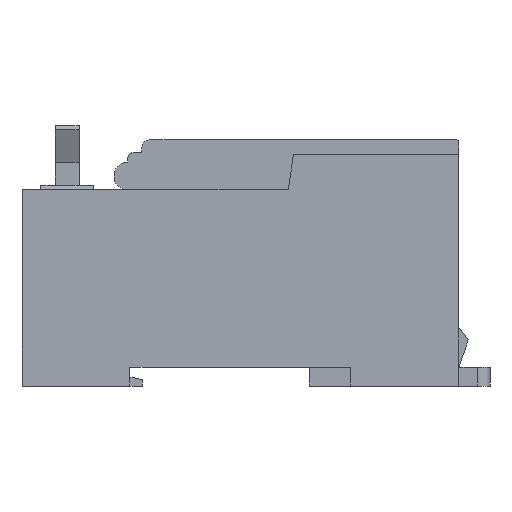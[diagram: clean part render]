
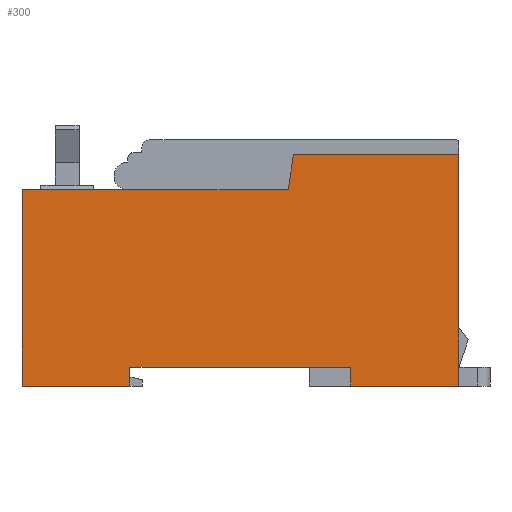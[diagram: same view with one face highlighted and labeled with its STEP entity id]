
A CAD part, left-side view. The second image highlights one B-rep face of the part: STEP entity #300.
In plain terms, the highlighted planar face has unit normal (-1, 0, 0).
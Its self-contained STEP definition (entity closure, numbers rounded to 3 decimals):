
#300=ADVANCED_FACE('',(#1552),#936,.T.);
#936=PLANE('',#12335);
#1552=FACE_OUTER_BOUND('',#2187,.T.);
#2187=EDGE_LOOP('',(#3232,#3233,#3234,#3235,#3236,#3237,#3238,#3239,#3240,
#3241,#3242));
#3232=ORIENTED_EDGE('',*,*,#7610,.T.);
#3233=ORIENTED_EDGE('',*,*,#7639,.F.);
#3234=ORIENTED_EDGE('',*,*,#7640,.F.);
#3235=ORIENTED_EDGE('',*,*,#7641,.F.);
#3236=ORIENTED_EDGE('',*,*,#7642,.T.);
#3237=ORIENTED_EDGE('',*,*,#7633,.F.);
#3238=ORIENTED_EDGE('',*,*,#7523,.T.);
#3239=ORIENTED_EDGE('',*,*,#7436,.T.);
#3240=ORIENTED_EDGE('',*,*,#7442,.T.);
#3241=ORIENTED_EDGE('',*,*,#7522,.F.);
#3242=ORIENTED_EDGE('',*,*,#7556,.T.);
#6321=VERTEX_POINT('',#16261);
#6322=VERTEX_POINT('',#16263);
#6326=VERTEX_POINT('',#16275);
#6400=VERTEX_POINT('',#16448);
#6401=VERTEX_POINT('',#16452);
#6426=VERTEX_POINT('',#16516);
#6474=VERTEX_POINT('',#16623);
#6491=VERTEX_POINT('',#16668);
#6496=VERTEX_POINT('',#16680);
#6497=VERTEX_POINT('',#16682);
#6498=VERTEX_POINT('',#16684);
#7436=EDGE_CURVE('',#6321,#6322,#9116,.T.);
#7442=EDGE_CURVE('',#6322,#6326,#9122,.T.);
#7522=EDGE_CURVE('',#6400,#6326,#9202,.T.);
#7523=EDGE_CURVE('',#6401,#6321,#9203,.T.);
#7556=EDGE_CURVE('',#6400,#6426,#9234,.T.);
#7610=EDGE_CURVE('',#6426,#6474,#9279,.T.);
#7633=EDGE_CURVE('',#6401,#6491,#9302,.T.);
#7639=EDGE_CURVE('',#6496,#6474,#9308,.T.);
#7640=EDGE_CURVE('',#6497,#6496,#9309,.T.);
#7641=EDGE_CURVE('',#6498,#6497,#9310,.T.);
#7642=EDGE_CURVE('',#6498,#6491,#9311,.T.);
#9116=LINE('',#16264,#10762);
#9122=LINE('',#16276,#10768);
#9202=LINE('',#16449,#10848);
#9203=LINE('',#16451,#10849);
#9234=LINE('',#16517,#10880);
#9279=LINE('',#16624,#10925);
#9302=LINE('',#16667,#10948);
#9308=LINE('',#16679,#10954);
#9309=LINE('',#16681,#10955);
#9310=LINE('',#16683,#10956);
#9311=LINE('',#16685,#10957);
#10762=VECTOR('',#13157,1.);
#10768=VECTOR('',#13167,1.);
#10848=VECTOR('',#13285,1.);
#10849=VECTOR('',#13288,1.);
#10880=VECTOR('',#13337,1.);
#10925=VECTOR('',#13410,1.);
#10948=VECTOR('',#13441,1.);
#10954=VECTOR('',#13449,1.);
#10955=VECTOR('',#13450,1.);
#10956=VECTOR('',#13451,1.);
#10957=VECTOR('',#13452,1.);
#12335=AXIS2_PLACEMENT_3D('',#16686,#13453,#13454);
#13157=DIRECTION('',(0.,0.,1.));
#13167=DIRECTION('',(0.,-1.,0.));
#13285=DIRECTION('',(0.,0.,1.));
#13288=DIRECTION('',(0.,-1.,0.));
#13337=DIRECTION('',(0.,-1.,0.));
#13410=DIRECTION('',(0.,0.,1.));
#13441=DIRECTION('',(0.,0.,1.));
#13449=DIRECTION('',(0.,-1.,0.));
#13450=DIRECTION('',(0.,-0.146,0.989));
#13451=DIRECTION('',(0.,-1.,0.));
#13452=DIRECTION('',(0.,1.,0.));
#13453=DIRECTION('',(-1.,0.,0.));
#13454=DIRECTION('',(0.,0.,1.));
#16261=CARTESIAN_POINT('',(-71.8,17.7,0.));
#16263=CARTESIAN_POINT('',(-71.8,17.7,3.));
#16264=CARTESIAN_POINT('',(-71.8,17.7,0.));
#16275=CARTESIAN_POINT('',(-71.8,-17.7,3.));
#16276=CARTESIAN_POINT('',(-71.8,0.,3.));
#16448=CARTESIAN_POINT('',(-71.8,-17.7,0.));
#16449=CARTESIAN_POINT('',(-71.8,-17.7,0.));
#16451=CARTESIAN_POINT('',(-71.8,0.,0.));
#16452=CARTESIAN_POINT('',(-71.8,35.,0.));
#16516=CARTESIAN_POINT('',(-71.8,-35.,0.));
#16517=CARTESIAN_POINT('',(-71.8,0.,0.));
#16623=CARTESIAN_POINT('',(-71.8,-35.,37.1));
#16624=CARTESIAN_POINT('',(-71.8,-35.,0.));
#16667=CARTESIAN_POINT('',(-71.8,35.,0.));
#16668=CARTESIAN_POINT('',(-71.8,35.,31.5));
#16679=CARTESIAN_POINT('',(-71.8,0.,37.1));
#16680=CARTESIAN_POINT('',(-71.8,-8.5,37.1));
#16681=CARTESIAN_POINT('',(-71.8,-2.955,-0.437));
#16682=CARTESIAN_POINT('',(-71.8,-7.673,31.5));
#16683=CARTESIAN_POINT('',(-71.8,0.,31.5));
#16684=CARTESIAN_POINT('',(-71.8,18.232,31.5));
#16685=CARTESIAN_POINT('',(-71.8,0.,31.5));
#16686=CARTESIAN_POINT('',(-71.8,0.,0.));
